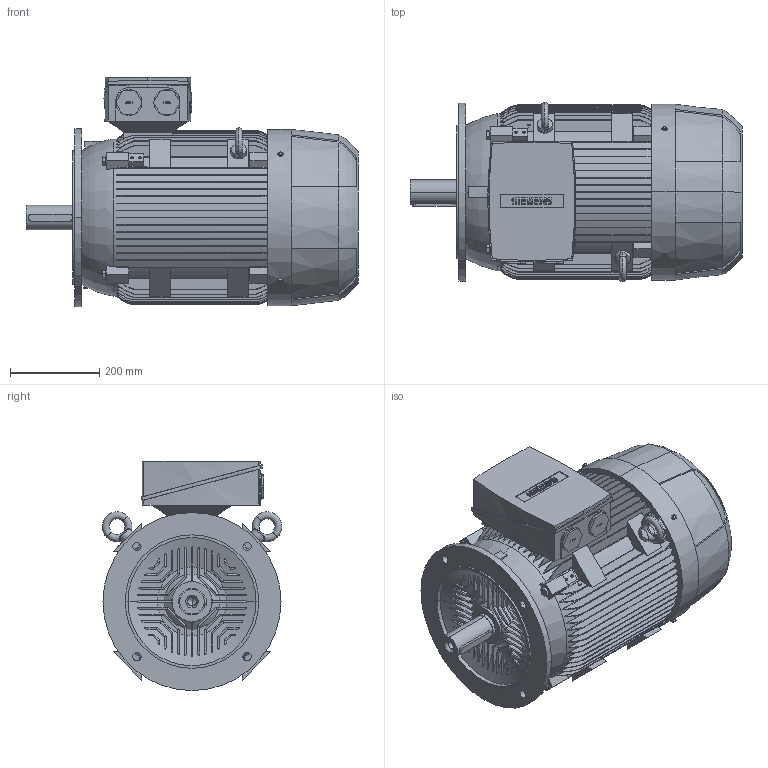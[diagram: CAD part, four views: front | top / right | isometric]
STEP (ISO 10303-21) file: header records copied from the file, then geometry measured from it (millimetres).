
FILE_DESCRIPTION(('STEP AP214'),'1');
FILE_NAME('cctmp_51A0C27F-E632-4228-9CE9-C6E06A452E14_2020_6_30_12_39_25_415..stp','2020-06-30T10:39:26',('SIEMENS A&D'),('CADClick - www.CADClick.com'),'Spatial InterOp 3D',' ','unknown authorization');
FILE_SCHEMA(('AUTOMOTIVE_DESIGN'));
Length unit declared in the file: millimetre
Products named in the file (1): 1
Bounding box: 746 x 403.47 x 515 mm (x, y, z)
Volume: 71129399.8 mm3; surface area: 2143635.5 mm2
Topology: 1 solids, 1 shells, 1359 faces, 3836 edges, 2496 vertices
Faces by surface type: plane 855, cylinder 318, torus 156, cone 30
Entity records: 64546 total; most frequent: CARTESIAN_POINT 19542, ORIENTED_EDGE 7588, DIRECTION 6692, EDGE_CURVE 3794, VERTEX_POINT 2496, AXIS2_PLACEMENT_3D 2338, LINE 2016, VECTOR 2016
